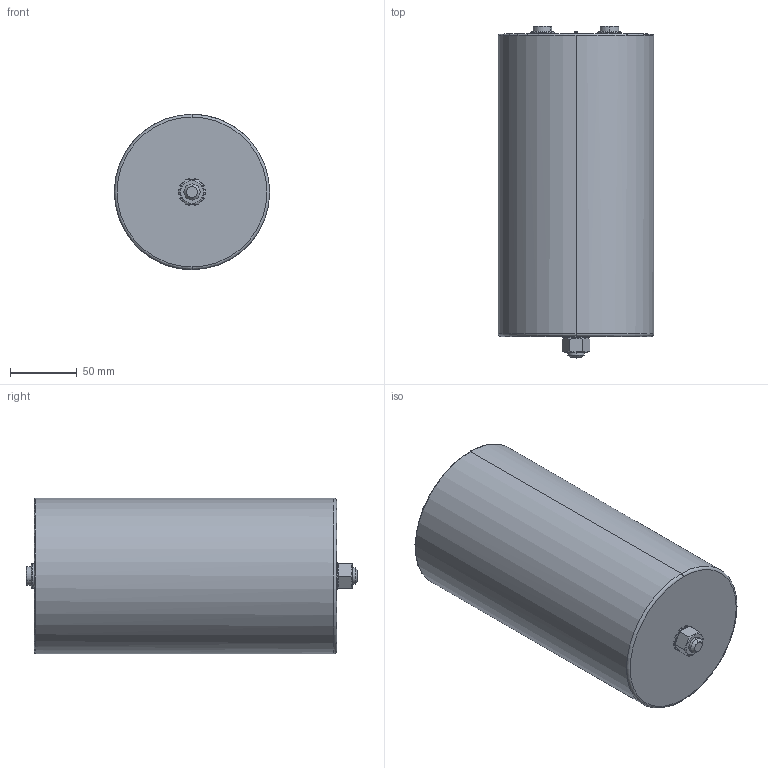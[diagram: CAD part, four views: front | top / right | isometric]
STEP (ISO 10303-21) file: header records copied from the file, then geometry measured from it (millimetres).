
FILE_DESCRIPTION (( 'STEP AP214' ), '1' );
FILE_NAME ('B25694M Series D116 Hc226 Ht232.STEP', '2025-07-24T05:44:44', ( '' ), ( '' ), 'SwSTEP 2.0', 'SolidWorks 2019', '' );
FILE_SCHEMA (( 'AUTOMOTIVE_DESIGN' ));
Length unit declared in the file: millimetre
Products named in the file (1): B25694M Series D116 Hc226 Ht232
Bounding box: 116 x 248 x 116 mm (x, y, z)
Volume: 2393580.2 mm3; surface area: 104910.5 mm2
Topology: 1 solids, 2 shells, 143 faces, 347 edges, 208 vertices
Faces by surface type: plane 60, cylinder 51, cone 22, torus 6, sphere 4
Entity records: 4281 total; most frequent: CARTESIAN_POINT 823, DIRECTION 791, ORIENTED_EDGE 678, EDGE_CURVE 339, AXIS2_PLACEMENT_3D 320, VERTEX_POINT 208, CIRCLE 176, EDGE_LOOP 153
